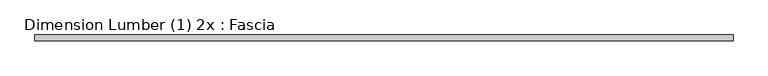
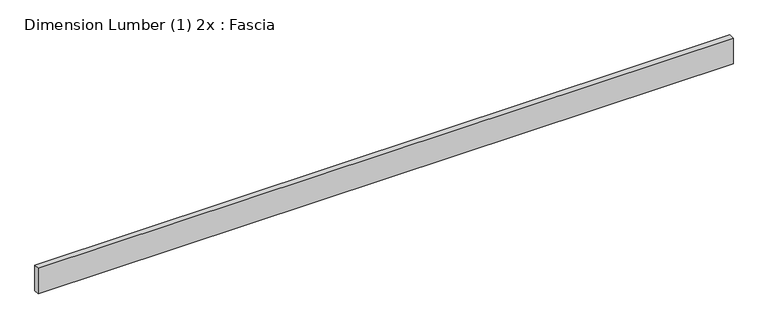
"""IFC4 building model written with IfcOpenShell, lengths in millimetres: beam geometry, Dimension Lumber (1) 2x : Fascia."""

from ifc_helpers import new_model, si_unit, frame, origin, place, context, project, spatial, polyline, outline, extrude, source, transform, mapped, element, save


def dimension_lumber_1_2x_fascia_8f4ded4c(model_context):
    return source(origin(), model_context, "Body", "SweptSolid", [
        extrude(outline(polyline([(2245.8045, 19.05), (2245.8045, -19.05), (-2325.1795, -19.05), (-2325.1795, 19.05), (2245.8045, 19.05)])), frame((0.0, 0.0, -88.9), z_axis=(0.0, 0.0, 1.0), x_axis=(1.0, 0.0, 0.0)), (0.0, 0.0, 1.0), 177.8),
    ])


if __name__ == "__main__":
    model = new_model("IFC4")
    model_context = context("Model", 3, world=origin())
    ifc_project = project(units=[si_unit("LENGTHUNIT", "METRE", prefix="MILLI")], contexts=[model_context])
    site = spatial("IfcSite", under=ifc_project)
    building = spatial("IfcBuilding", under=site)
    placement = place(None, origin())
    dimension_lumber_1_2x_fascia_shape = dimension_lumber_1_2x_fascia_8f4ded4c(model_context)
    element("IfcBeam", 1, ObjectType="Dimension Lumber (1) 2x : Fascia", at=placement, inside=building, context=model_context, shape_type="MappedRepresentation", body=[
        mapped(dimension_lumber_1_2x_fascia_shape, transform((0.0, 0.0, 0.0), x_axis=(1.0, 0.0, 0.0), y_axis=(0.0, 1.0, 0.0), z_axis=(0.0, 0.0, 1.0))),
    ])
    save(model, "model.ifc")
